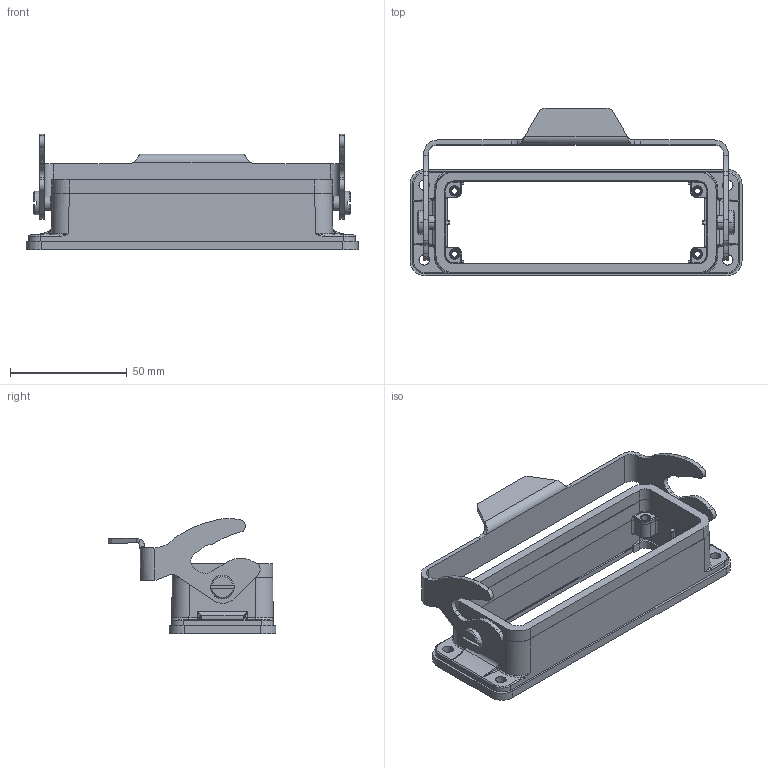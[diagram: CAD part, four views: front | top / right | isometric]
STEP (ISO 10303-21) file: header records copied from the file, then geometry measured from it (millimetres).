
FILE_DESCRIPTION (( 'STEP AP203' ), '1' );
FILE_NAME ('H24B-AG-LB.STEP', '2020-11-21T06:48:11', ( '' ), ( '' ), 'SwSTEP 2.0', 'SolidWorks 2016', '' );
FILE_SCHEMA (( 'CONFIG_CONTROL_DESIGN' ));
Length unit declared in the file: millimetre
Products named in the file (6): h24bbaobianmifengdian; h24b-ag; H24B-AG-LB; prt0002; 24b; mifengdian
Assembly tree (6 placements, depth 2):
  H24B-AG-LB
    mifengdian
    24b
    prt0002  x2
    h24b-ag
    h24bbaobianmifengdian
Bounding box: 142.2 x 71.8 x 49.3 mm (x, y, z)
Volume: 52764.7 mm3; surface area: 44748 mm2
Topology: 6 solids, 6 shells, 654 faces, 1604 edges, 977 vertices
Faces by surface type: cylinder 253, plane 175, bspline 168, cone 58
Entity records: 27171 total; most frequent: CARTESIAN_POINT 13353, ORIENTED_EDGE 3116, DIRECTION 2204, EDGE_CURVE 1558, VERTEX_POINT 948, AXIS2_PLACEMENT_3D 776, EDGE_LOOP 680, VECTOR 652
